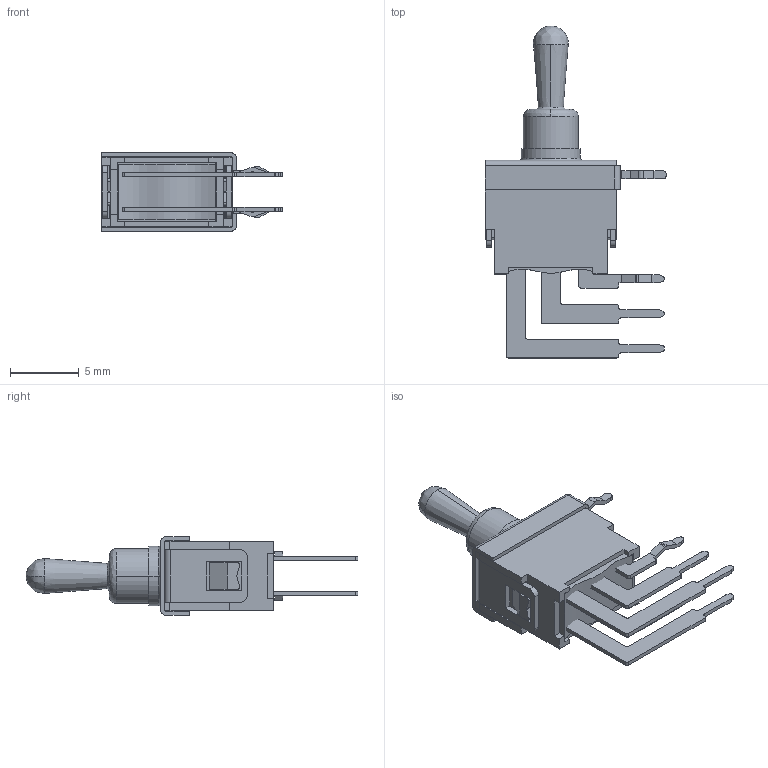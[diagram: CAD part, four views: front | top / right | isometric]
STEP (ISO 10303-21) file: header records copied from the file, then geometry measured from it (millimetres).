
FILE_DESCRIPTION (( 'STEP AP203' ), '1' );
FILE_NAME ('P2TED1T1A01M70R1ES.STEP', '2017-04-27T02:38:46', ( '' ), ( '' ), 'SwSTEP 2.0', 'SolidWorks 2012', '' );
FILE_SCHEMA (( 'CONFIG_CONTROL_DESIGN' ));
Length unit declared in the file: millimetre
Products named in the file (10): P2TED1T1A01M70R1ES; SU-2TE7; EPOXY-03; TE-2TE7_TE-2TE7裁切後-反向折彎; TE-2TE7_TE-2TE7裁切後; FCA-2TE2; CP-2AE2; TO-2TE1; HX-2TE1; HO-2TEXS
Assembly tree (9 placements, depth 2):
  P2TED1T1A01M70R1ES
    HO-2TEXS
    HX-2TE1
    TO-2TE1
    CP-2AE2
    FCA-2TE2
    TE-2TE7_TE-2TE7裁切後
    TE-2TE7_TE-2TE7裁切後-反向折彎
    EPOXY-03
    SU-2TE7
Bounding box: 13.15 x 24.11 x 5.7 mm (x, y, z)
Volume: 302.2 mm3; surface area: 1522.9 mm2
Topology: 14 solids, 14 shells, 572 faces, 1568 edges, 1028 vertices
Faces by surface type: plane 355, cylinder 186, bspline 23, cone 8
Entity records: 20021 total; most frequent: CARTESIAN_POINT 4316, ORIENTED_EDGE 3128, DIRECTION 2998, EDGE_CURVE 1564, LINE 1110, VECTOR 1110, VERTEX_POINT 1028, AXIS2_PLACEMENT_3D 944
